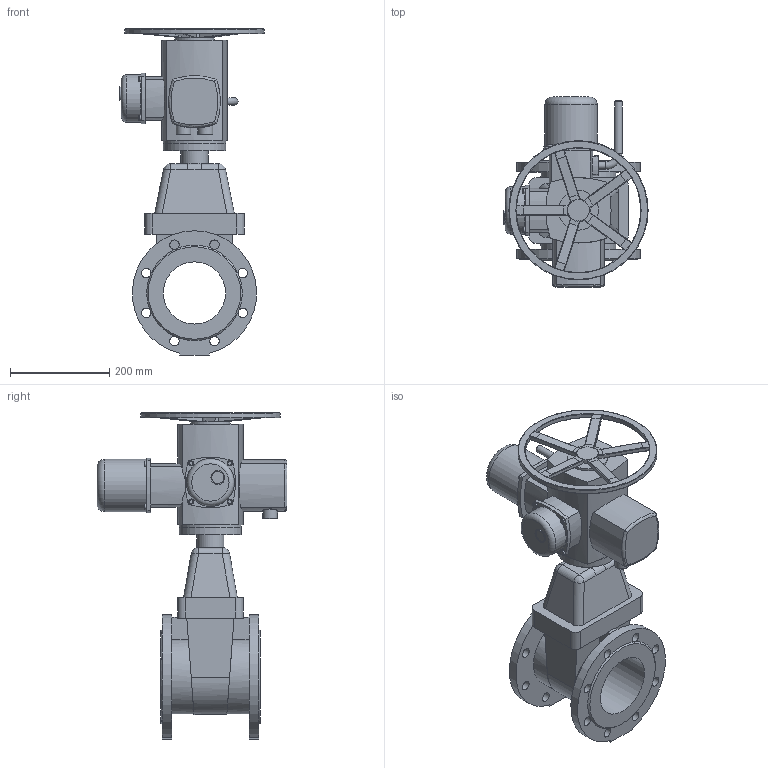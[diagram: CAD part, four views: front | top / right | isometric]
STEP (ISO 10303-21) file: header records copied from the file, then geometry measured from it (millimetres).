
FILE_DESCRIPTION(('STEP AP203'), '1');
FILE_NAME('青溻桄赅 47GVA DN125 PN10_PN16+MT903.Z10', '', ('UNSPECIFIED'), ('UNSPECIFIED'), 'ASCON STEP Converter 1.6', 'ASCON Math Kernel', '');
FILE_SCHEMA(('CONFIG_CONTROL_DESIGN'));
Length unit declared in the file: millimetre
Bounding box: 290 x 382 x 656 mm (x, y, z)
Volume: 12081376.5 mm3; surface area: 824220 mm2
Topology: 2 solids, 2 shells, 403 faces, 1008 edges, 618 vertices
Faces by surface type: cylinder 193, plane 169, torus 25, bspline 9, cone 7
Full cylindrical faces by diameter (mm): 8.376 x4, 10 x8, 12 x4, 15 x2, 19 x16, 24 x2, 28 x2, 29.22 x1, 30 x1, 55 x1, 70 x2, 80 x1, 95 x1, 105 x1, 125 x3, 280 x1
Entity records: 20266 total; most frequent: CARTESIAN_POINT 8114, ORIENTED_EDGE 1836, DIRECTION 1755, EDGE_CURVE 918, AXIS2_PLACEMENT_3D 697, VERTEX_POINT 612, EDGE_LOOP 548, FACE_BOUND 415
